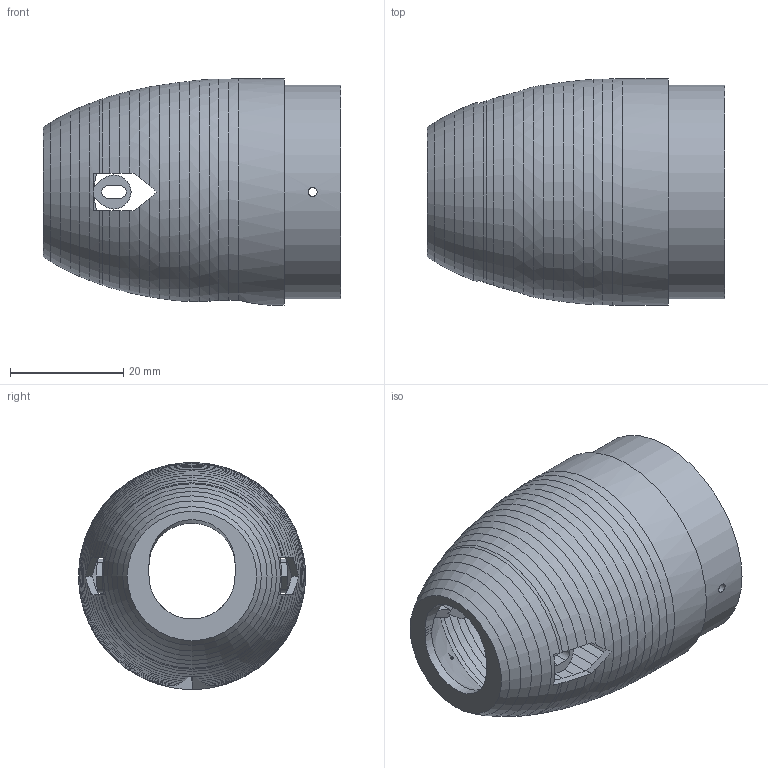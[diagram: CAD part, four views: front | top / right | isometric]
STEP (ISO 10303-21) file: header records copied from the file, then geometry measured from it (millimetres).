
FILE_DESCRIPTION(('SkyG Speed 90B - revision C6B-2 - 2026-10-08','N0M-nose-micro-camera'),'2;1');
FILE_NAME('N0M-nose-micro-camera_C6B-2','2026-10-08T01:12:37',('Author'),( 'Open CASCADE'),'Open CASCADE STEP processor 7.9','Open CASCADE 7.9' ,'Unknown');
FILE_SCHEMA(('AUTOMOTIVE_DESIGN { 1 0 10303 214 1 1 1 1 }'));
Length unit declared in the file: millimetre
Products named in the file (1): N0M-nose-micro-camera C6B-2
Bounding box: 52.5 x 40 x 40 mm (x, y, z)
Volume: 11556.7 mm3; surface area: 13084.5 mm2
Topology: 1 solids, 1 shells, 281 faces, 816 edges, 536 vertices
Faces by surface type: plane 152, cone 62, cylinder 35, bspline 32
Full cylindrical faces by diameter (mm): 1.6 x2, 33.8 x1, 37.7 x1, 40 x1
Entity records: 23122 total; most frequent: CARTESIAN_POINT 8291, DIRECTION 2436, ORIENTED_EDGE 1632, PCURVE 1632, DEFINITIONAL_REPRESENTATION 1632, LINE 1043, VECTOR 1043, EDGE_CURVE 816
